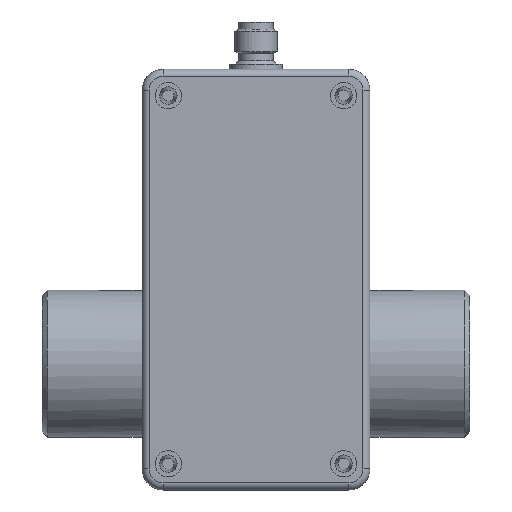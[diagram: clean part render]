
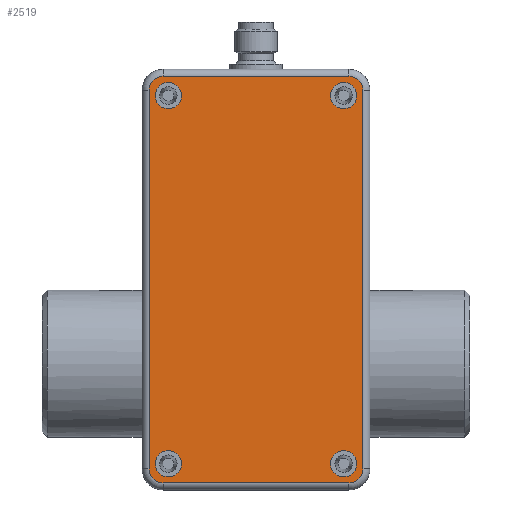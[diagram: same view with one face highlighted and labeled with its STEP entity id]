
A CAD part, left-side view. The second image highlights one B-rep face of the part: STEP entity #2519.
In plain terms, the highlighted planar face has unit normal (-1, 0, 0).
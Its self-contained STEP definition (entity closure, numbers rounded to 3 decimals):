
#137=FACE_BOUND('',#444,.T.);
#138=FACE_BOUND('',#445,.T.);
#139=FACE_BOUND('',#446,.T.);
#140=FACE_BOUND('',#447,.T.);
#176=PLANE('',#2786);
#286=FACE_OUTER_BOUND('',#443,.T.);
#443=EDGE_LOOP('',(#2005,#2006,#2007,#2008,#2009,#2010,#2011,#2012));
#444=EDGE_LOOP('',(#2013));
#445=EDGE_LOOP('',(#2014));
#446=EDGE_LOOP('',(#2015));
#447=EDGE_LOOP('',(#2016));
#589=LINE('',#4076,#770);
#591=LINE('',#4096,#772);
#594=LINE('',#4103,#775);
#596=LINE('',#4118,#777);
#770=VECTOR('',#3282,10.);
#772=VECTOR('',#3306,10.);
#775=VECTOR('',#3313,10.);
#777=VECTOR('',#3333,10.);
#970=CIRCLE('',#2755,4.);
#974=CIRCLE('',#2760,4.);
#978=CIRCLE('',#2767,4.);
#982=CIRCLE('',#2772,4.);
#991=CIRCLE('',#2787,3.75);
#992=CIRCLE('',#2788,3.75);
#993=CIRCLE('',#2789,3.75);
#994=CIRCLE('',#2790,3.75);
#1169=VERTEX_POINT('',#4073);
#1170=VERTEX_POINT('',#4075);
#1173=VERTEX_POINT('',#4082);
#1174=VERTEX_POINT('',#4087);
#1177=VERTEX_POINT('',#4094);
#1178=VERTEX_POINT('',#4099);
#1181=VERTEX_POINT('',#4106);
#1182=VERTEX_POINT('',#4111);
#1196=VERTEX_POINT('',#4152);
#1197=VERTEX_POINT('',#4154);
#1198=VERTEX_POINT('',#4156);
#1199=VERTEX_POINT('',#4158);
#1453=EDGE_CURVE('',#1169,#1170,#589,.T.);
#1457=EDGE_CURVE('',#1173,#1169,#970,.T.);
#1461=EDGE_CURVE('',#1170,#1174,#974,.T.);
#1463=EDGE_CURVE('',#1177,#1173,#591,.T.);
#1467=EDGE_CURVE('',#1174,#1178,#594,.T.);
#1469=EDGE_CURVE('',#1181,#1177,#978,.T.);
#1473=EDGE_CURVE('',#1178,#1182,#982,.T.);
#1475=EDGE_CURVE('',#1182,#1181,#596,.T.);
#1492=EDGE_CURVE('',#1196,#1196,#991,.T.);
#1493=EDGE_CURVE('',#1197,#1197,#992,.T.);
#1494=EDGE_CURVE('',#1198,#1198,#993,.T.);
#1495=EDGE_CURVE('',#1199,#1199,#994,.T.);
#2005=ORIENTED_EDGE('',*,*,#1453,.F.);
#2006=ORIENTED_EDGE('',*,*,#1457,.F.);
#2007=ORIENTED_EDGE('',*,*,#1463,.F.);
#2008=ORIENTED_EDGE('',*,*,#1469,.F.);
#2009=ORIENTED_EDGE('',*,*,#1475,.F.);
#2010=ORIENTED_EDGE('',*,*,#1473,.F.);
#2011=ORIENTED_EDGE('',*,*,#1467,.F.);
#2012=ORIENTED_EDGE('',*,*,#1461,.F.);
#2013=ORIENTED_EDGE('',*,*,#1492,.T.);
#2014=ORIENTED_EDGE('',*,*,#1493,.T.);
#2015=ORIENTED_EDGE('',*,*,#1494,.T.);
#2016=ORIENTED_EDGE('',*,*,#1495,.T.);
#2519=ADVANCED_FACE('',(#286,#137,#138,#139,#140),#176,.F.);
#2755=AXIS2_PLACEMENT_3D('',#4084,#3290,#3291);
#2760=AXIS2_PLACEMENT_3D('',#4091,#3300,#3301);
#2767=AXIS2_PLACEMENT_3D('',#4108,#3318,#3319);
#2772=AXIS2_PLACEMENT_3D('',#4115,#3328,#3329);
#2786=AXIS2_PLACEMENT_3D('',#4151,#3366,#3367);
#2787=AXIS2_PLACEMENT_3D('',#4153,#3368,#3369);
#2788=AXIS2_PLACEMENT_3D('',#4155,#3370,#3371);
#2789=AXIS2_PLACEMENT_3D('',#4157,#3372,#3373);
#2790=AXIS2_PLACEMENT_3D('',#4159,#3374,#3375);
#3282=DIRECTION('',(0.,0.,-1.));
#3290=DIRECTION('center_axis',(1.,0.,0.));
#3291=DIRECTION('ref_axis',(0.,-0.707,0.707));
#3300=DIRECTION('center_axis',(1.,0.,0.));
#3301=DIRECTION('ref_axis',(0.,-0.707,-0.707));
#3306=DIRECTION('',(0.,-1.,0.));
#3313=DIRECTION('',(0.,1.,0.));
#3318=DIRECTION('center_axis',(1.,0.,0.));
#3319=DIRECTION('ref_axis',(0.,0.707,0.707));
#3328=DIRECTION('center_axis',(1.,0.,0.));
#3329=DIRECTION('ref_axis',(0.,0.707,-0.707));
#3333=DIRECTION('',(0.,0.,1.));
#3366=DIRECTION('center_axis',(1.,0.,0.));
#3367=DIRECTION('ref_axis',(0.,0.,-1.));
#3368=DIRECTION('center_axis',(1.,0.,0.));
#3369=DIRECTION('ref_axis',(0.,-1.,0.));
#3370=DIRECTION('center_axis',(1.,0.,0.));
#3371=DIRECTION('ref_axis',(0.,-1.,0.));
#3372=DIRECTION('center_axis',(1.,0.,0.));
#3373=DIRECTION('ref_axis',(0.,-1.,0.));
#3374=DIRECTION('center_axis',(1.,0.,0.));
#3375=DIRECTION('ref_axis',(0.,-1.,0.));
#4073=CARTESIAN_POINT('',(-25.,-30.5,54.));
#4075=CARTESIAN_POINT('',(-25.,-30.5,-54.));
#4076=CARTESIAN_POINT('',(-25.,-30.5,27.));
#4082=CARTESIAN_POINT('',(-25.,-26.5,58.));
#4084=CARTESIAN_POINT('Origin',(-25.,-26.5,54.));
#4087=CARTESIAN_POINT('',(-25.,-26.5,-58.));
#4091=CARTESIAN_POINT('Origin',(-25.,-26.5,-54.));
#4094=CARTESIAN_POINT('',(-25.,26.5,58.));
#4096=CARTESIAN_POINT('',(-25.,13.25,58.));
#4099=CARTESIAN_POINT('',(-25.,26.5,-58.));
#4103=CARTESIAN_POINT('',(-25.,-13.25,-58.));
#4106=CARTESIAN_POINT('',(-25.,30.5,54.));
#4108=CARTESIAN_POINT('Origin',(-25.,26.5,54.));
#4111=CARTESIAN_POINT('',(-25.,30.5,-54.));
#4115=CARTESIAN_POINT('Origin',(-25.,26.5,-54.));
#4118=CARTESIAN_POINT('',(-25.,30.5,-27.));
#4151=CARTESIAN_POINT('Origin',(-25.,0.,0.));
#4152=CARTESIAN_POINT('',(-25.,-21.25,52.5));
#4153=CARTESIAN_POINT('Origin',(-25.,-25.,52.5));
#4154=CARTESIAN_POINT('',(-25.,28.75,52.5));
#4155=CARTESIAN_POINT('Origin',(-25.,25.,52.5));
#4156=CARTESIAN_POINT('',(-25.,-21.25,-52.5));
#4157=CARTESIAN_POINT('Origin',(-25.,-25.,-52.5));
#4158=CARTESIAN_POINT('',(-25.,28.75,-52.5));
#4159=CARTESIAN_POINT('Origin',(-25.,25.,-52.5));
